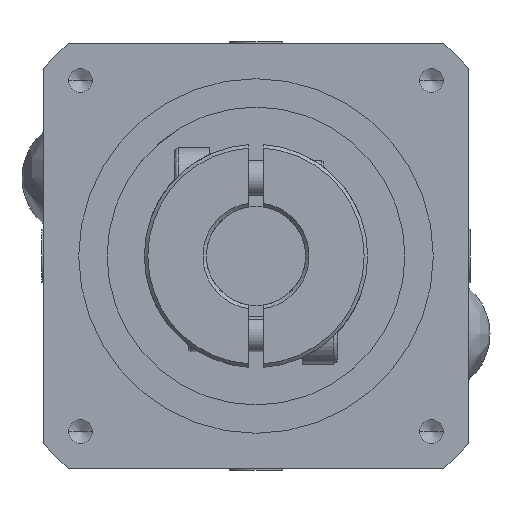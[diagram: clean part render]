
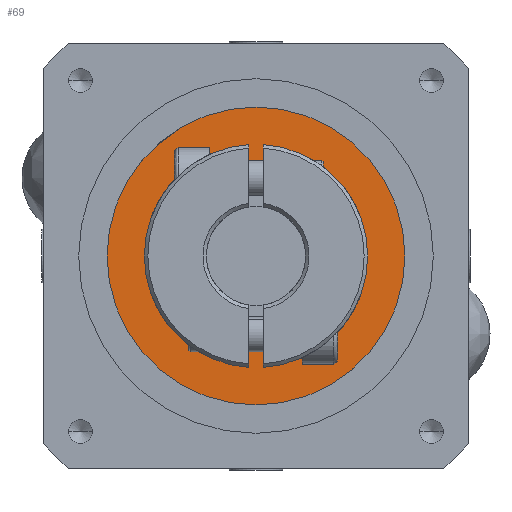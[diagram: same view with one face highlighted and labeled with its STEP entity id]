
A CAD part, left-side view. The second image highlights one B-rep face of the part: STEP entity #69.
In plain terms, the highlighted planar face has unit normal (-1, 0, 0) as drawn and (0, 0, 1) by its records, which use the part's own axes.
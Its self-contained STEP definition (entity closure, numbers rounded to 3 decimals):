
#5 = EDGE_LOOP ( 'NONE', ( #3827, #4058 ) ) ;
#69 = ADVANCED_FACE ( 'NONE', ( #3643 ), #4426, .T. ) ;
#167 = CARTESIAN_POINT ( 'NONE',  ( -29.5, 0., 12.5 ) ) ;
#676 = CIRCLE ( 'NONE', #2909, 29.5 ) ;
#1443 = DIRECTION ( 'NONE',  ( -1., 0., 0. ) ) ;
#1667 = VERTEX_POINT ( 'NONE', #3450 ) ;
#2173 = DIRECTION ( 'NONE',  ( 0., 0., 1. ) ) ;
#2356 = VERTEX_POINT ( 'NONE', #167 ) ;
#2364 = CARTESIAN_POINT ( 'NONE',  ( 0., 0., 12.5 ) ) ;
#2909 = AXIS2_PLACEMENT_3D ( 'NONE', #4124, #2173, #4845 ) ;
#3450 = CARTESIAN_POINT ( 'NONE',  ( 29.5, 0., 12.5 ) ) ;
#3643 = FACE_OUTER_BOUND ( 'NONE', #5, .T. ) ;
#3827 = ORIENTED_EDGE ( 'NONE', *, *, #8270, .T. ) ;
#4058 = ORIENTED_EDGE ( 'NONE', *, *, #5440, .T. ) ;
#4124 = CARTESIAN_POINT ( 'NONE',  ( 0., 0., 12.5 ) ) ;
#4426 = PLANE ( 'NONE',  #4941 ) ;
#4845 = DIRECTION ( 'NONE',  ( -1., 0., 0. ) ) ;
#4941 = AXIS2_PLACEMENT_3D ( 'NONE', #2364, #6495, #7846 ) ;
#5418 = CIRCLE ( 'NONE', #5766, 29.5 ) ;
#5440 = EDGE_CURVE ( 'NONE', #1667, #2356, #676, .T. ) ;
#5766 = AXIS2_PLACEMENT_3D ( 'NONE', #6828, #6106, #1443 ) ;
#6106 = DIRECTION ( 'NONE',  ( 0., 0., 1. ) ) ;
#6495 = DIRECTION ( 'NONE',  ( 0., 0., 1. ) ) ;
#6828 = CARTESIAN_POINT ( 'NONE',  ( 0., 0., 12.5 ) ) ;
#7846 = DIRECTION ( 'NONE',  ( 1., 0., 0. ) ) ;
#8270 = EDGE_CURVE ( 'NONE', #2356, #1667, #5418, .T. ) ;
